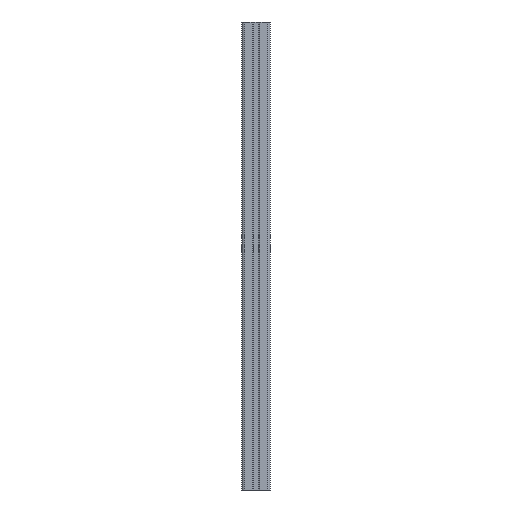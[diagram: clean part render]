
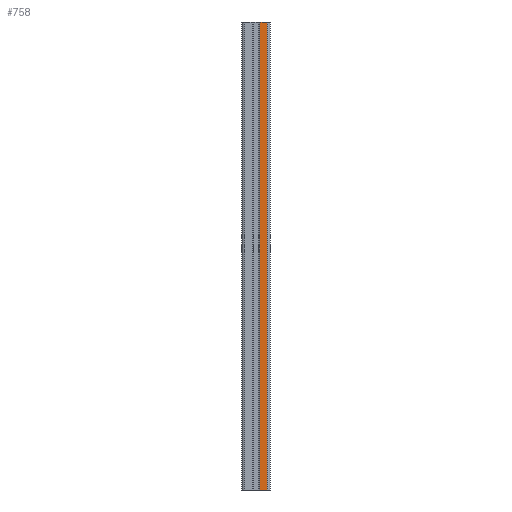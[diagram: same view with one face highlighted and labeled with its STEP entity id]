
A CAD part, left-side view. The second image highlights one B-rep face of the part: STEP entity #758.
In plain terms, the highlighted planar face has unit normal (-1, 0, 0).
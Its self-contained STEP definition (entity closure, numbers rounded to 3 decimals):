
#38 = CARTESIAN_POINT ( 'NONE',  ( -22095.643, -18254.248, 500. ) ) ;
#178 = VERTEX_POINT ( 'NONE', #1538 ) ;
#182 = VERTEX_POINT ( 'NONE', #38 ) ;
#314 = EDGE_CURVE ( 'NONE', #178, #182, #1946, .T. ) ;
#632 = VERTEX_POINT ( 'NONE', #2628 ) ;
#678 = VERTEX_POINT ( 'NONE', #2652 ) ;
#708 = EDGE_CURVE ( 'NONE', #178, #632, #2677, .T. ) ;
#718 = ORIENTED_EDGE ( 'NONE', *, *, #314, .F. ) ;
#752 = EDGE_CURVE ( 'NONE', #632, #678, #2760, .T. ) ;
#758 = ADVANCED_FACE ( 'NONE', ( #2808 ), #2759, .F. ) ;
#759 = EDGE_CURVE ( 'NONE', #182, #678, #2776, .T. ) ;
#833 = ORIENTED_EDGE ( 'NONE', *, *, #752, .T. ) ;
#852 = ORIENTED_EDGE ( 'NONE', *, *, #708, .T. ) ;
#1014 = ORIENTED_EDGE ( 'NONE', *, *, #759, .F. ) ;
#1015 = EDGE_LOOP ( 'NONE', ( #833, #1014, #718, #852 ) ) ;
#1538 = CARTESIAN_POINT ( 'NONE',  ( -22095.643, -18246.423, 500. ) ) ;
#1932 = DIRECTION ( 'NONE',  ( 0., -1., 0. ) ) ;
#1933 = VECTOR ( 'NONE', #1932, 1000. ) ;
#1934 = CARTESIAN_POINT ( 'NONE',  ( -22095.643, -18246.423, 500. ) ) ;
#1946 = LINE ( 'NONE', #1934, #1933 ) ;
#2628 = CARTESIAN_POINT ( 'NONE',  ( -22095.643, -18246.423, 0. ) ) ;
#2652 = CARTESIAN_POINT ( 'NONE',  ( -22095.643, -18254.248, 0. ) ) ;
#2677 = LINE ( 'NONE', #2698, #2697 ) ;
#2696 = DIRECTION ( 'NONE',  ( 0., 0., -1. ) ) ;
#2697 = VECTOR ( 'NONE', #2696, 1000. ) ;
#2698 = CARTESIAN_POINT ( 'NONE',  ( -22095.643, -18246.423, 500. ) ) ;
#2748 = AXIS2_PLACEMENT_3D ( 'NONE', #2777, #2798, #2797 ) ;
#2754 = VECTOR ( 'NONE', #2774, 1000. ) ;
#2755 = CARTESIAN_POINT ( 'NONE',  ( -22095.643, -18254.248, 500. ) ) ;
#2759 = PLANE ( 'NONE',  #2748 ) ;
#2760 = LINE ( 'NONE', #2786, #2785 ) ;
#2774 = DIRECTION ( 'NONE',  ( 0., 0., -1. ) ) ;
#2776 = LINE ( 'NONE', #2755, #2754 ) ;
#2777 = CARTESIAN_POINT ( 'NONE',  ( -22095.643, -18246.423, 500. ) ) ;
#2784 = DIRECTION ( 'NONE',  ( 0., -1., 0. ) ) ;
#2785 = VECTOR ( 'NONE', #2784, 1000. ) ;
#2786 = CARTESIAN_POINT ( 'NONE',  ( -22095.643, -18246.423, 0. ) ) ;
#2797 = DIRECTION ( 'NONE',  ( 0., 0., -1. ) ) ;
#2798 = DIRECTION ( 'NONE',  ( 1., 0., 0. ) ) ;
#2808 = FACE_OUTER_BOUND ( 'NONE', #1015, .T. ) ;
